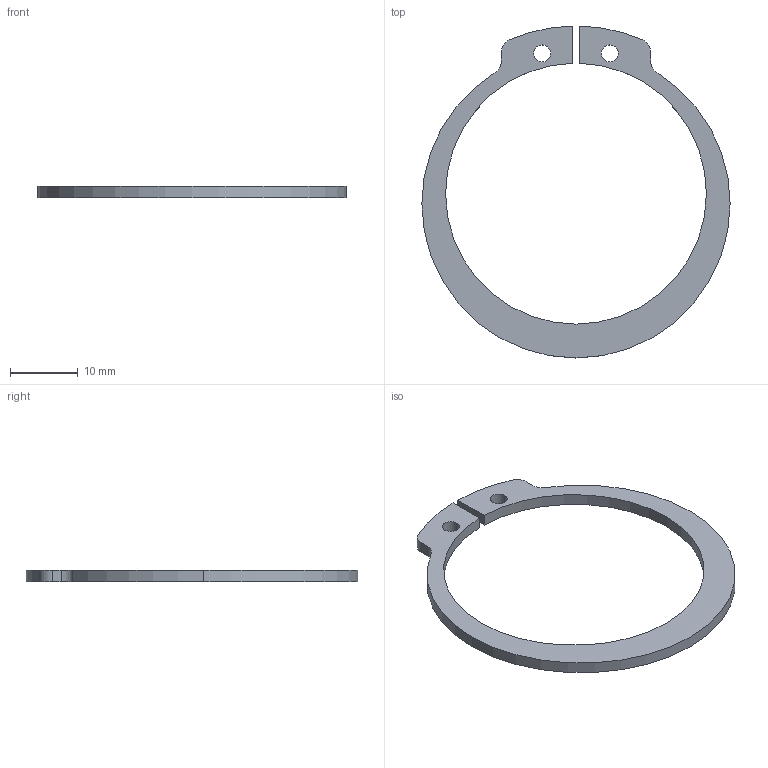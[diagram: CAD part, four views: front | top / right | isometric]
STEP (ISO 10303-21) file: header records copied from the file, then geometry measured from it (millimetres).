
FILE_DESCRIPTION(('CATIA V5 STEP Exchange'),'2;1');
FILE_NAME('C:\Users\Utente\Desktop\IO LAVORO\3D X SITO CF\X SITO\PLASTICA\553S\553S-R42.stp','2021-04-21T09:16:06+00:00',('none'),('none'),'CATIA Version 5 Release 20 GA (IN-10)','CATIA V5 STEP AP203','none');
FILE_SCHEMA(('CONFIG_CONTROL_DESIGN'));
Length unit declared in the file: millimetre
Products named in the file (1): 553S-R42
Bounding box: 45.5 x 48.99 x 1.75 mm (x, y, z)
Volume: 918.6 mm3; surface area: 1565.9 mm2
Topology: 1 solids, 1 shells, 22 faces, 60 edges, 40 vertices
Faces by surface type: cylinder 16, plane 6
Entity records: 724 total; most frequent: CARTESIAN_POINT 121, ORIENTED_EDGE 120, DIRECTION 100, EDGE_CURVE 60, AXIS2_PLACEMENT_3D 53, VERTEX_POINT 40, CIRCLE 32, VECTOR 28
